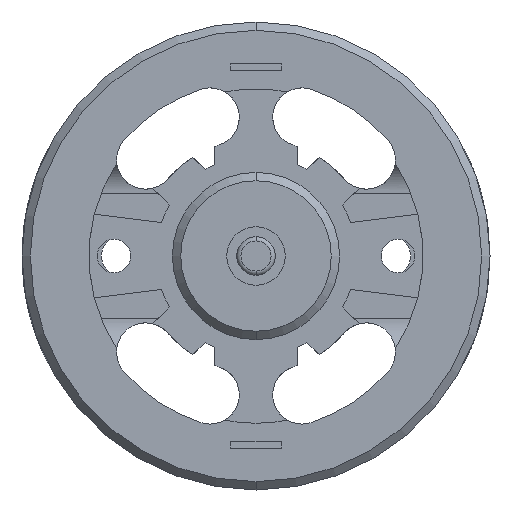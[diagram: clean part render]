
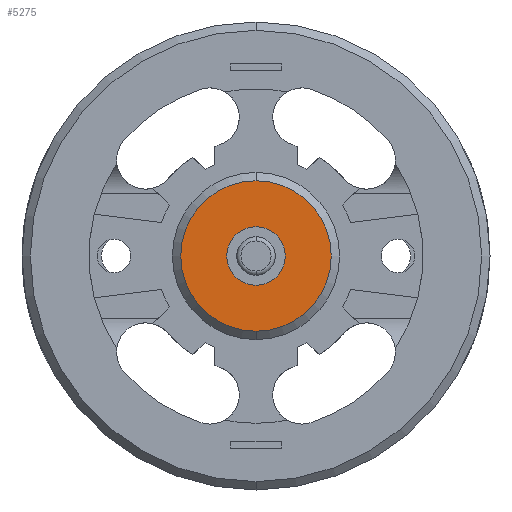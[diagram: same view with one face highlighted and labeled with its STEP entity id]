
A CAD part, front view. The second image highlights one B-rep face of the part: STEP entity #5275.
In plain terms, the highlighted planar face has unit normal (0, -1, 0).
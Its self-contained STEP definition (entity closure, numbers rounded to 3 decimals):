
#37 = AXIS2_PLACEMENT_3D ( 'NONE', #5473, #3276, #2221 ) ;
#235 = CIRCLE ( 'NONE', #37, 1.75 ) ;
#286 = DIRECTION ( 'NONE',  ( 0., -1., 0. ) ) ;
#299 = DIRECTION ( 'NONE',  ( 0., 0., -1. ) ) ;
#305 = CARTESIAN_POINT ( 'NONE',  ( 0., -2., 4.5 ) ) ;
#352 = DIRECTION ( 'NONE',  ( 0., -1., 0. ) ) ;
#486 = EDGE_CURVE ( 'NONE', #1288, #4069, #2517, .T. ) ;
#505 = AXIS2_PLACEMENT_3D ( 'NONE', #4480, #775, #299 ) ;
#528 = CIRCLE ( 'NONE', #901, 4.5 ) ;
#580 = DIRECTION ( 'NONE',  ( 0., 0., -1. ) ) ;
#630 = CARTESIAN_POINT ( 'NONE',  ( 0., -2., 0. ) ) ;
#698 = DIRECTION ( 'NONE',  ( 0., 0., -1. ) ) ;
#775 = DIRECTION ( 'NONE',  ( 0., -1., 0. ) ) ;
#836 = CARTESIAN_POINT ( 'NONE',  ( 0., -2., 0. ) ) ;
#901 = AXIS2_PLACEMENT_3D ( 'NONE', #5226, #2929, #580 ) ;
#998 = AXIS2_PLACEMENT_3D ( 'NONE', #630, #286, #698 ) ;
#1199 = EDGE_LOOP ( 'NONE', ( #4645, #4710 ) ) ;
#1276 = PLANE ( 'NONE',  #5377 ) ;
#1288 = VERTEX_POINT ( 'NONE', #1579 ) ;
#1579 = CARTESIAN_POINT ( 'NONE',  ( 0., -2., 1.75 ) ) ;
#1594 = FACE_OUTER_BOUND ( 'NONE', #1199, .T. ) ;
#2069 = EDGE_CURVE ( 'NONE', #2848, #2713, #3759, .T. ) ;
#2138 = CARTESIAN_POINT ( 'NONE',  ( 0., -2., -1.75 ) ) ;
#2221 = DIRECTION ( 'NONE',  ( 0., 0., -1. ) ) ;
#2324 = EDGE_CURVE ( 'NONE', #2713, #2848, #528, .T. ) ;
#2517 = CIRCLE ( 'NONE', #998, 1.75 ) ;
#2713 = VERTEX_POINT ( 'NONE', #5731 ) ;
#2848 = VERTEX_POINT ( 'NONE', #305 ) ;
#2929 = DIRECTION ( 'NONE',  ( 0., -1., 0. ) ) ;
#3276 = DIRECTION ( 'NONE',  ( 0., -1., 0. ) ) ;
#3759 = CIRCLE ( 'NONE', #505, 4.5 ) ;
#4069 = VERTEX_POINT ( 'NONE', #2138 ) ;
#4097 = EDGE_LOOP ( 'NONE', ( #4169, #5608 ) ) ;
#4169 = ORIENTED_EDGE ( 'NONE', *, *, #4170, .F. ) ;
#4170 = EDGE_CURVE ( 'NONE', #4069, #1288, #235, .T. ) ;
#4480 = CARTESIAN_POINT ( 'NONE',  ( 0., -2., 0. ) ) ;
#4521 = DIRECTION ( 'NONE',  ( 0., 0., -1. ) ) ;
#4645 = ORIENTED_EDGE ( 'NONE', *, *, #2069, .T. ) ;
#4710 = ORIENTED_EDGE ( 'NONE', *, *, #2324, .T. ) ;
#4956 = FACE_BOUND ( 'NONE', #4097, .T. ) ;
#5226 = CARTESIAN_POINT ( 'NONE',  ( 0., -2., 0. ) ) ;
#5275 = ADVANCED_FACE ( 'NONE', ( #4956, #1594 ), #1276, .T. ) ;
#5377 = AXIS2_PLACEMENT_3D ( 'NONE', #836, #352, #4521 ) ;
#5473 = CARTESIAN_POINT ( 'NONE',  ( 0., -2., 0. ) ) ;
#5608 = ORIENTED_EDGE ( 'NONE', *, *, #486, .F. ) ;
#5731 = CARTESIAN_POINT ( 'NONE',  ( 0., -2., -4.5 ) ) ;
